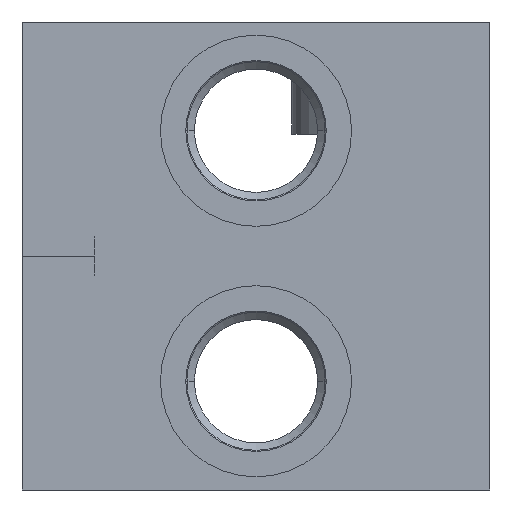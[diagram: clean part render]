
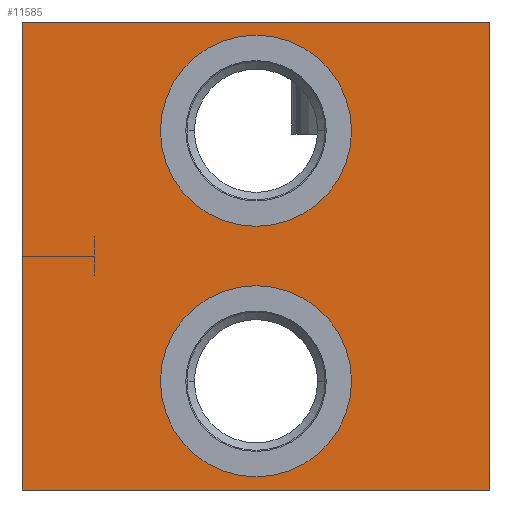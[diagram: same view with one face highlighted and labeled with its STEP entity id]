
A CAD part, left-side view. The second image highlights one B-rep face of the part: STEP entity #11585.
In plain terms, the highlighted planar face has unit normal (-1, 0, 0).
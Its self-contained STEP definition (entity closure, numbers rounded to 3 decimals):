
#30=DIRECTION('',(0.,-1.,0.));
#31=VECTOR('',#30,71.);
#32=CARTESIAN_POINT('',(0.,71.,0.));
#33=LINE('',#32,#31);
#371=DIRECTION('',(0.,0.,-1.));
#372=VECTOR('',#371,71.);
#373=CARTESIAN_POINT('',(0.,0.,0.));
#374=LINE('',#373,#372);
#2600=DIRECTION('',(0.,0.,-1.));
#2601=VECTOR('',#2600,71.);
#2602=CARTESIAN_POINT('',(0.,71.,0.));
#2603=LINE('',#2602,#2601);
#2607=CARTESIAN_POINT('',(0.,35.5,-54.5));
#2608=DIRECTION('',(1.,0.,0.));
#2609=DIRECTION('',(0.,-1.,0.));
#2610=AXIS2_PLACEMENT_3D('',#2607,#2608,#2609);
#2615=CARTESIAN_POINT('',(0.,35.5,-54.5));
#2616=DIRECTION('',(1.,0.,0.));
#2617=DIRECTION('',(0.,1.,0.));
#2618=AXIS2_PLACEMENT_3D('',#2615,#2616,#2617);
#2623=CARTESIAN_POINT('',(0.,35.5,-16.5));
#2624=DIRECTION('',(1.,0.,0.));
#2625=DIRECTION('',(0.,-1.,0.));
#2626=AXIS2_PLACEMENT_3D('',#2623,#2624,#2625);
#2631=CARTESIAN_POINT('',(0.,35.5,-16.5));
#2632=DIRECTION('',(1.,0.,0.));
#2633=DIRECTION('',(0.,1.,0.));
#2634=AXIS2_PLACEMENT_3D('',#2631,#2632,#2633);
#2660=DIRECTION('',(0.,-1.,0.));
#2661=VECTOR('',#2660,71.);
#2662=CARTESIAN_POINT('',(0.,71.,-71.));
#2663=LINE('',#2662,#2661);
#9798=CARTESIAN_POINT('',(0.,0.,0.));
#9800=VERTEX_POINT('',#9798);
#9804=CARTESIAN_POINT('',(0.,71.,0.));
#9805=VERTEX_POINT('',#9804);
#9806=CARTESIAN_POINT('',(0.,0.,-71.));
#9808=VERTEX_POINT('',#9806);
#9812=CARTESIAN_POINT('',(0.,71.,-71.));
#9813=VERTEX_POINT('',#9812);
#9842=CARTESIAN_POINT('',(0.,21.,-54.5));
#9843=CARTESIAN_POINT('',(0.,50.,-54.5));
#9844=VERTEX_POINT('',#9842);
#9845=VERTEX_POINT('',#9843);
#9858=CARTESIAN_POINT('',(0.,21.,-16.5));
#9859=CARTESIAN_POINT('',(0.,50.,-16.5));
#9860=VERTEX_POINT('',#9858);
#9861=VERTEX_POINT('',#9859);
#11561=CARTESIAN_POINT('',(0.,71.,0.));
#11562=DIRECTION('',(-1.,0.,0.));
#11563=DIRECTION('',(0.,-1.,0.));
#11564=AXIS2_PLACEMENT_3D('',#11561,#11562,#11563);
#11565=PLANE('',#11564);
#11566=ORIENTED_EDGE('',*,*,#10911,.T.);
#11567=ORIENTED_EDGE('',*,*,#11057,.T.);
#11569=ORIENTED_EDGE('',*,*,#11568,.F.);
#11570=ORIENTED_EDGE('',*,*,#11144,.F.);
#11571=EDGE_LOOP('',(#11566,#11567,#11569,#11570));
#11572=FACE_OUTER_BOUND('',#11571,.F.);
#11574=ORIENTED_EDGE('',*,*,#11573,.F.);
#11576=ORIENTED_EDGE('',*,*,#11575,.F.);
#11577=EDGE_LOOP('',(#11574,#11576));
#11578=FACE_BOUND('',#11577,.F.);
#11580=ORIENTED_EDGE('',*,*,#11579,.F.);
#11582=ORIENTED_EDGE('',*,*,#11581,.F.);
#11583=EDGE_LOOP('',(#11580,#11582));
#11584=FACE_BOUND('',#11583,.F.);
#2611=CIRCLE('',#2610,14.5);
#2619=CIRCLE('',#2618,14.5);
#2627=CIRCLE('',#2626,14.5);
#2635=CIRCLE('',#2634,14.5);
#10911=EDGE_CURVE('',#9805,#9800,#33,.T.);
#11057=EDGE_CURVE('',#9800,#9808,#374,.T.);
#11144=EDGE_CURVE('',#9805,#9813,#2603,.T.);
#11568=EDGE_CURVE('',#9813,#9808,#2663,.T.);
#11573=EDGE_CURVE('',#9844,#9845,#2611,.T.);
#11575=EDGE_CURVE('',#9845,#9844,#2619,.T.);
#11579=EDGE_CURVE('',#9860,#9861,#2627,.T.);
#11581=EDGE_CURVE('',#9861,#9860,#2635,.T.);
#11585=ADVANCED_FACE('',(#11572,#11578,#11584),#11565,.T.);
